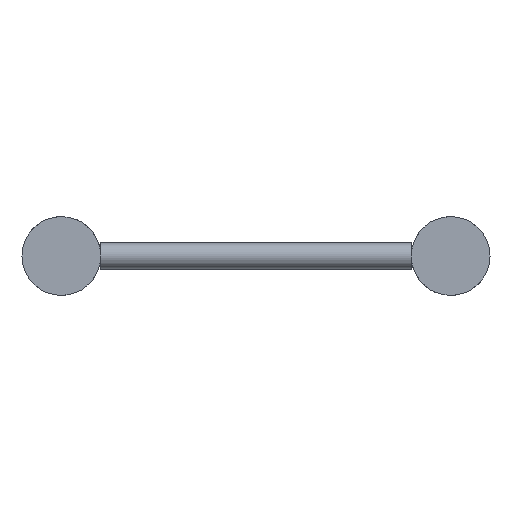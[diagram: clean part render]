
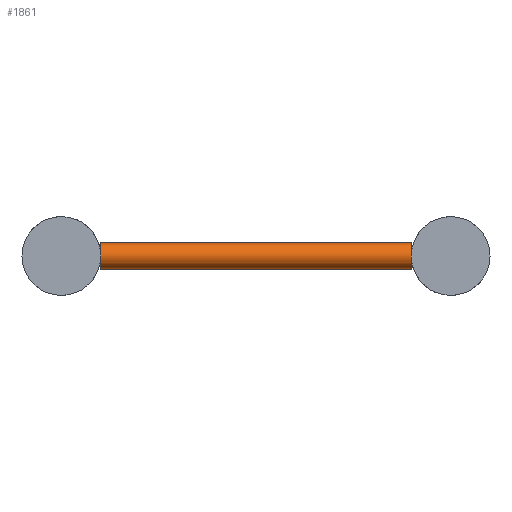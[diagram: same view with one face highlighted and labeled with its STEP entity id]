
A CAD part, left-side view. The second image highlights one B-rep face of the part: STEP entity #1861.
In plain terms, the highlighted cylindrical face has radius 8 mm (diameter 16 mm), a full revolution.
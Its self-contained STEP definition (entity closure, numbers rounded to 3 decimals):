
#367=FACE_BOUND('',#653,.T.);
#516=FACE_OUTER_BOUND('',#652,.T.);
#652=EDGE_LOOP('',(#1425,#1426));
#653=EDGE_LOOP('',(#1427,#1428));
#757=CIRCLE('',#2046,8.);
#758=CIRCLE('',#2048,8.);
#759=CIRCLE('',#2050,8.);
#760=CIRCLE('',#2052,8.);
#905=VERTEX_POINT('',#3249);
#906=VERTEX_POINT('',#3250);
#907=VERTEX_POINT('',#3254);
#908=VERTEX_POINT('',#3255);
#1128=EDGE_CURVE('',#906,#905,#757,.T.);
#1130=EDGE_CURVE('',#908,#907,#758,.T.);
#1131=EDGE_CURVE('',#905,#906,#759,.T.);
#1132=EDGE_CURVE('',#907,#908,#760,.T.);
#1425=ORIENTED_EDGE('',*,*,#1128,.T.);
#1426=ORIENTED_EDGE('',*,*,#1131,.T.);
#1427=ORIENTED_EDGE('',*,*,#1130,.T.);
#1428=ORIENTED_EDGE('',*,*,#1132,.T.);
#1645=CYLINDRICAL_SURFACE('',#2051,8.);
#1861=ADVANCED_FACE('',(#516,#367),#1645,.T.);
#2046=AXIS2_PLACEMENT_3D('',#3252,#2464,#2465);
#2048=AXIS2_PLACEMENT_3D('',#3257,#2469,#2470);
#2050=AXIS2_PLACEMENT_3D('',#3259,#2473,#2474);
#2051=AXIS2_PLACEMENT_3D('',#3260,#2475,#2476);
#2052=AXIS2_PLACEMENT_3D('',#3261,#2477,#2478);
#2464=DIRECTION('center_axis',(0.,1.,0.));
#2465=DIRECTION('ref_axis',(-1.,0.,0.));
#2469=DIRECTION('center_axis',(0.,-1.,0.));
#2470=DIRECTION('ref_axis',(-1.,0.,0.));
#2473=DIRECTION('center_axis',(0.,1.,0.));
#2474=DIRECTION('ref_axis',(-1.,0.,0.));
#2475=DIRECTION('center_axis',(0.,1.,0.));
#2476=DIRECTION('ref_axis',(-1.,0.,0.));
#2477=DIRECTION('center_axis',(0.,-1.,0.));
#2478=DIRECTION('ref_axis',(-1.,0.,0.));
#3249=CARTESIAN_POINT('',(52.,24.15,0.));
#3250=CARTESIAN_POINT('',(68.,24.15,0.));
#3252=CARTESIAN_POINT('Origin',(60.,24.15,0.));
#3254=CARTESIAN_POINT('',(52.,214.85,0.));
#3255=CARTESIAN_POINT('',(68.,214.85,0.));
#3257=CARTESIAN_POINT('Origin',(60.,214.85,0.));
#3259=CARTESIAN_POINT('Origin',(60.,24.15,0.));
#3260=CARTESIAN_POINT('Origin',(60.,119.5,0.));
#3261=CARTESIAN_POINT('Origin',(60.,214.85,0.));
